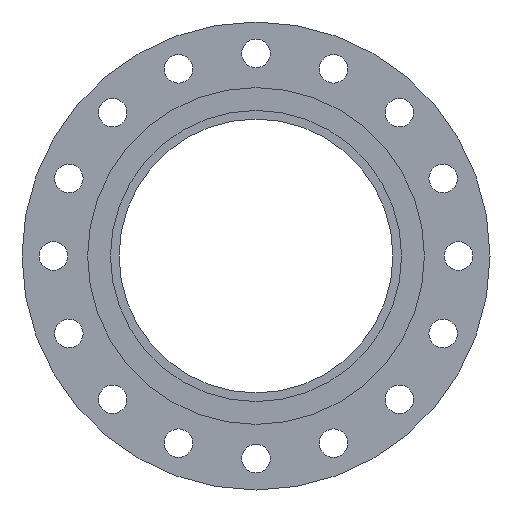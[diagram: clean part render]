
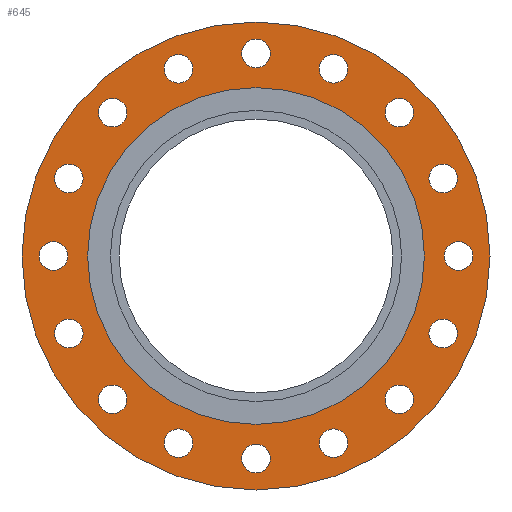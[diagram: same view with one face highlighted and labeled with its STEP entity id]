
A CAD part, left-side view. The second image highlights one B-rep face of the part: STEP entity #645.
In plain terms, the highlighted planar face has unit normal (-1, 0, 0).
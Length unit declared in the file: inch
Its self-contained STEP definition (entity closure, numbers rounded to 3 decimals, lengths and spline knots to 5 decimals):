
#14=FACE_BOUND('',#108,.T.);
#15=FACE_BOUND('',#109,.T.);
#16=FACE_BOUND('',#110,.T.);
#17=FACE_BOUND('',#111,.T.);
#18=FACE_BOUND('',#112,.T.);
#19=FACE_BOUND('',#113,.T.);
#20=FACE_BOUND('',#114,.T.);
#21=FACE_BOUND('',#115,.T.);
#22=FACE_BOUND('',#116,.T.);
#23=FACE_BOUND('',#117,.T.);
#24=FACE_BOUND('',#118,.T.);
#25=FACE_BOUND('',#119,.T.);
#26=FACE_BOUND('',#120,.T.);
#27=FACE_BOUND('',#121,.T.);
#28=FACE_BOUND('',#122,.T.);
#29=FACE_BOUND('',#123,.T.);
#30=FACE_BOUND('',#124,.T.);
#53=PLANE('',#731);
#77=FACE_OUTER_BOUND('',#107,.T.);
#107=EDGE_LOOP('',(#478,#479));
#108=EDGE_LOOP('',(#480));
#109=EDGE_LOOP('',(#481));
#110=EDGE_LOOP('',(#482));
#111=EDGE_LOOP('',(#483));
#112=EDGE_LOOP('',(#484));
#113=EDGE_LOOP('',(#485));
#114=EDGE_LOOP('',(#486));
#115=EDGE_LOOP('',(#487));
#116=EDGE_LOOP('',(#488));
#117=EDGE_LOOP('',(#489));
#118=EDGE_LOOP('',(#490));
#119=EDGE_LOOP('',(#491));
#120=EDGE_LOOP('',(#492));
#121=EDGE_LOOP('',(#493));
#122=EDGE_LOOP('',(#494));
#123=EDGE_LOOP('',(#495));
#124=EDGE_LOOP('',(#496,#497));
#206=CIRCLE('',#680,0.625);
#208=CIRCLE('',#683,0.625);
#210=CIRCLE('',#686,0.625);
#212=CIRCLE('',#689,0.625);
#214=CIRCLE('',#692,0.625);
#216=CIRCLE('',#695,0.625);
#218=CIRCLE('',#698,0.625);
#220=CIRCLE('',#701,0.625);
#222=CIRCLE('',#704,0.625);
#224=CIRCLE('',#707,0.625);
#226=CIRCLE('',#710,0.625);
#228=CIRCLE('',#713,0.625);
#230=CIRCLE('',#716,0.625);
#232=CIRCLE('',#719,0.625);
#234=CIRCLE('',#722,0.625);
#236=CIRCLE('',#725,0.625);
#237=CIRCLE('',#727,10.25);
#238=CIRCLE('',#728,10.25);
#241=CIRCLE('',#732,7.375);
#242=CIRCLE('',#733,7.375);
#266=VERTEX_POINT('',#977);
#268=VERTEX_POINT('',#983);
#270=VERTEX_POINT('',#989);
#272=VERTEX_POINT('',#995);
#274=VERTEX_POINT('',#1001);
#276=VERTEX_POINT('',#1007);
#278=VERTEX_POINT('',#1013);
#280=VERTEX_POINT('',#1019);
#282=VERTEX_POINT('',#1025);
#284=VERTEX_POINT('',#1031);
#286=VERTEX_POINT('',#1037);
#288=VERTEX_POINT('',#1043);
#290=VERTEX_POINT('',#1049);
#292=VERTEX_POINT('',#1055);
#294=VERTEX_POINT('',#1061);
#296=VERTEX_POINT('',#1067);
#297=VERTEX_POINT('',#1071);
#298=VERTEX_POINT('',#1072);
#301=VERTEX_POINT('',#1081);
#302=VERTEX_POINT('',#1082);
#327=EDGE_CURVE('',#266,#266,#206,.T.);
#330=EDGE_CURVE('',#268,#268,#208,.T.);
#333=EDGE_CURVE('',#270,#270,#210,.T.);
#336=EDGE_CURVE('',#272,#272,#212,.T.);
#339=EDGE_CURVE('',#274,#274,#214,.T.);
#342=EDGE_CURVE('',#276,#276,#216,.T.);
#345=EDGE_CURVE('',#278,#278,#218,.T.);
#348=EDGE_CURVE('',#280,#280,#220,.T.);
#351=EDGE_CURVE('',#282,#282,#222,.T.);
#354=EDGE_CURVE('',#284,#284,#224,.T.);
#357=EDGE_CURVE('',#286,#286,#226,.T.);
#360=EDGE_CURVE('',#288,#288,#228,.T.);
#363=EDGE_CURVE('',#290,#290,#230,.T.);
#366=EDGE_CURVE('',#292,#292,#232,.T.);
#369=EDGE_CURVE('',#294,#294,#234,.T.);
#372=EDGE_CURVE('',#296,#296,#236,.T.);
#373=EDGE_CURVE('',#297,#298,#237,.T.);
#374=EDGE_CURVE('',#298,#297,#238,.T.);
#378=EDGE_CURVE('',#301,#302,#241,.T.);
#379=EDGE_CURVE('',#302,#301,#242,.T.);
#478=ORIENTED_EDGE('',*,*,#373,.T.);
#479=ORIENTED_EDGE('',*,*,#374,.T.);
#480=ORIENTED_EDGE('',*,*,#327,.T.);
#481=ORIENTED_EDGE('',*,*,#330,.T.);
#482=ORIENTED_EDGE('',*,*,#333,.T.);
#483=ORIENTED_EDGE('',*,*,#336,.T.);
#484=ORIENTED_EDGE('',*,*,#339,.T.);
#485=ORIENTED_EDGE('',*,*,#342,.T.);
#486=ORIENTED_EDGE('',*,*,#345,.T.);
#487=ORIENTED_EDGE('',*,*,#348,.T.);
#488=ORIENTED_EDGE('',*,*,#351,.T.);
#489=ORIENTED_EDGE('',*,*,#354,.T.);
#490=ORIENTED_EDGE('',*,*,#357,.T.);
#491=ORIENTED_EDGE('',*,*,#360,.T.);
#492=ORIENTED_EDGE('',*,*,#363,.T.);
#493=ORIENTED_EDGE('',*,*,#366,.T.);
#494=ORIENTED_EDGE('',*,*,#369,.T.);
#495=ORIENTED_EDGE('',*,*,#372,.T.);
#496=ORIENTED_EDGE('',*,*,#378,.F.);
#497=ORIENTED_EDGE('',*,*,#379,.F.);
#645=ADVANCED_FACE('',(#77,#14,#15,#16,#17,#18,#19,#20,#21,#22,#23,#24,
#25,#26,#27,#28,#29,#30),#53,.T.);
#680=AXIS2_PLACEMENT_3D('',#979,#775,#776);
#683=AXIS2_PLACEMENT_3D('',#985,#782,#783);
#686=AXIS2_PLACEMENT_3D('',#991,#789,#790);
#689=AXIS2_PLACEMENT_3D('',#997,#796,#797);
#692=AXIS2_PLACEMENT_3D('',#1003,#803,#804);
#695=AXIS2_PLACEMENT_3D('',#1009,#810,#811);
#698=AXIS2_PLACEMENT_3D('',#1015,#817,#818);
#701=AXIS2_PLACEMENT_3D('',#1021,#824,#825);
#704=AXIS2_PLACEMENT_3D('',#1027,#831,#832);
#707=AXIS2_PLACEMENT_3D('',#1033,#838,#839);
#710=AXIS2_PLACEMENT_3D('',#1039,#845,#846);
#713=AXIS2_PLACEMENT_3D('',#1045,#852,#853);
#716=AXIS2_PLACEMENT_3D('',#1051,#859,#860);
#719=AXIS2_PLACEMENT_3D('',#1057,#866,#867);
#722=AXIS2_PLACEMENT_3D('',#1063,#873,#874);
#725=AXIS2_PLACEMENT_3D('',#1069,#880,#881);
#727=AXIS2_PLACEMENT_3D('',#1073,#884,#885);
#728=AXIS2_PLACEMENT_3D('',#1074,#886,#887);
#731=AXIS2_PLACEMENT_3D('',#1080,#893,#894);
#732=AXIS2_PLACEMENT_3D('',#1083,#895,#896);
#733=AXIS2_PLACEMENT_3D('',#1084,#897,#898);
#775=DIRECTION('center_axis',(1.,0.,0.));
#776=DIRECTION('ref_axis',(0.,-0.383,0.924));
#782=DIRECTION('center_axis',(1.,0.,0.));
#783=DIRECTION('ref_axis',(0.,-0.707,0.707));
#789=DIRECTION('center_axis',(1.,0.,0.));
#790=DIRECTION('ref_axis',(0.,-0.924,0.383));
#796=DIRECTION('center_axis',(1.,0.,0.));
#797=DIRECTION('ref_axis',(0.,-1.,0.));
#803=DIRECTION('center_axis',(1.,0.,0.));
#804=DIRECTION('ref_axis',(0.,-0.924,-0.383));
#810=DIRECTION('center_axis',(1.,0.,0.));
#811=DIRECTION('ref_axis',(0.,-0.707,-0.707));
#817=DIRECTION('center_axis',(1.,0.,0.));
#818=DIRECTION('ref_axis',(0.,-0.383,-0.924));
#824=DIRECTION('center_axis',(1.,0.,0.));
#825=DIRECTION('ref_axis',(0.,0.,-1.));
#831=DIRECTION('center_axis',(1.,0.,0.));
#832=DIRECTION('ref_axis',(0.,0.383,-0.924));
#838=DIRECTION('center_axis',(1.,0.,0.));
#839=DIRECTION('ref_axis',(0.,0.707,-0.707));
#845=DIRECTION('center_axis',(1.,0.,0.));
#846=DIRECTION('ref_axis',(0.,0.924,-0.383));
#852=DIRECTION('center_axis',(1.,0.,0.));
#853=DIRECTION('ref_axis',(0.,1.,0.));
#859=DIRECTION('center_axis',(1.,0.,0.));
#860=DIRECTION('ref_axis',(0.,0.924,0.383));
#866=DIRECTION('center_axis',(1.,0.,0.));
#867=DIRECTION('ref_axis',(0.,0.707,0.707));
#873=DIRECTION('center_axis',(1.,0.,0.));
#874=DIRECTION('ref_axis',(0.,0.383,0.924));
#880=DIRECTION('center_axis',(1.,0.,0.));
#881=DIRECTION('ref_axis',(0.,0.,1.));
#884=DIRECTION('center_axis',(-1.,0.,0.));
#885=DIRECTION('ref_axis',(0.,0.,1.));
#886=DIRECTION('center_axis',(-1.,0.,0.));
#887=DIRECTION('ref_axis',(0.,0.,1.));
#893=DIRECTION('center_axis',(-1.,0.,0.));
#894=DIRECTION('ref_axis',(0.,0.,1.));
#895=DIRECTION('center_axis',(-1.,0.,0.));
#896=DIRECTION('ref_axis',(0.,0.,1.));
#897=DIRECTION('center_axis',(-1.,0.,0.));
#898=DIRECTION('ref_axis',(0.,0.,1.));
#977=CARTESIAN_POINT('',(-2.,3.63549,-8.77686));
#979=CARTESIAN_POINT('Origin',(-2.,3.39632,-8.19943));
#983=CARTESIAN_POINT('',(-2.,6.71751,-6.71751));
#985=CARTESIAN_POINT('Origin',(-2.,6.27557,-6.27557));
#989=CARTESIAN_POINT('',(-2.,8.77686,-3.63549));
#991=CARTESIAN_POINT('Origin',(-2.,8.19943,-3.39632));
#995=CARTESIAN_POINT('',(-2.,9.5,0.));
#997=CARTESIAN_POINT('Origin',(-2.,8.875,0.));
#1001=CARTESIAN_POINT('',(-2.,8.77686,3.63549));
#1003=CARTESIAN_POINT('Origin',(-2.,8.19943,3.39632));
#1007=CARTESIAN_POINT('',(-2.,6.71751,6.71751));
#1009=CARTESIAN_POINT('Origin',(-2.,6.27557,6.27557));
#1013=CARTESIAN_POINT('',(-2.,3.63549,8.77686));
#1015=CARTESIAN_POINT('Origin',(-2.,3.39632,8.19943));
#1019=CARTESIAN_POINT('',(-2.,0.,9.5));
#1021=CARTESIAN_POINT('Origin',(-2.,0.,8.875));
#1025=CARTESIAN_POINT('',(-2.,-3.63549,8.77686));
#1027=CARTESIAN_POINT('Origin',(-2.,-3.39632,8.19943));
#1031=CARTESIAN_POINT('',(-2.,-6.71751,6.71751));
#1033=CARTESIAN_POINT('Origin',(-2.,-6.27557,6.27557));
#1037=CARTESIAN_POINT('',(-2.,-8.77686,3.63549));
#1039=CARTESIAN_POINT('Origin',(-2.,-8.19943,3.39632));
#1043=CARTESIAN_POINT('',(-2.,-9.5,0.));
#1045=CARTESIAN_POINT('Origin',(-2.,-8.875,0.));
#1049=CARTESIAN_POINT('',(-2.,-8.77686,-3.63549));
#1051=CARTESIAN_POINT('Origin',(-2.,-8.19943,-3.39632));
#1055=CARTESIAN_POINT('',(-2.,-6.71751,-6.71751));
#1057=CARTESIAN_POINT('Origin',(-2.,-6.27557,-6.27557));
#1061=CARTESIAN_POINT('',(-2.,-3.63549,-8.77686));
#1063=CARTESIAN_POINT('Origin',(-2.,-3.39632,-8.19943));
#1067=CARTESIAN_POINT('',(-2.,0.,-9.5));
#1069=CARTESIAN_POINT('Origin',(-2.,0.,-8.875));
#1071=CARTESIAN_POINT('',(-2.,0.,10.25));
#1072=CARTESIAN_POINT('',(-2.,0.,-10.25));
#1073=CARTESIAN_POINT('Origin',(-2.,0.,0.));
#1074=CARTESIAN_POINT('Origin',(-2.,0.,0.));
#1080=CARTESIAN_POINT('Origin',(-2.,0.,8.8125));
#1081=CARTESIAN_POINT('',(-2.,0.,7.375));
#1082=CARTESIAN_POINT('',(-2.,0.,-7.375));
#1083=CARTESIAN_POINT('Origin',(-2.,0.,0.));
#1084=CARTESIAN_POINT('Origin',(-2.,0.,0.));
